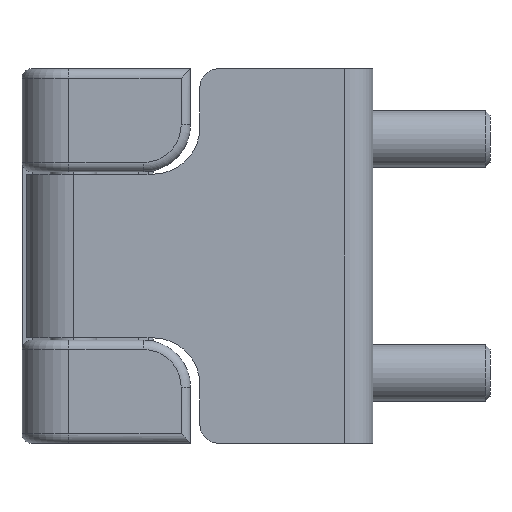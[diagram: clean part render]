
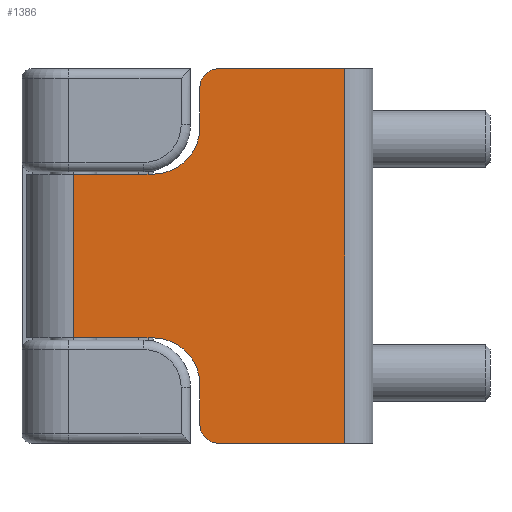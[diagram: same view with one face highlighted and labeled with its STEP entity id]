
A CAD part, left-side view. The second image highlights one B-rep face of the part: STEP entity #1386.
In plain terms, the highlighted planar face has unit normal (-1, 0, 0).
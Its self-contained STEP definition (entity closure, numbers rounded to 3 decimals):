
#1249 = VERTEX_POINT ( 'NONE', #5689 ) ;
#1255 = VERTEX_POINT ( 'NONE', #5735 ) ;
#1259 = EDGE_CURVE ( 'NONE', #1255, #1272, #5733, .T. ) ;
#1263 = VERTEX_POINT ( 'NONE', #5730 ) ;
#1264 = EDGE_CURVE ( 'NONE', #1255, #1263, #5717, .T. ) ;
#1271 = EDGE_CURVE ( 'NONE', #1272, #1249, #5786, .T. ) ;
#1272 = VERTEX_POINT ( 'NONE', #5760 ) ;
#1291 = EDGE_CURVE ( 'NONE', #1318, #1311, #5832, .T. ) ;
#1309 = EDGE_CURVE ( 'NONE', #1263, #1318, #5896, .T. ) ;
#1311 = VERTEX_POINT ( 'NONE', #5882 ) ;
#1318 = VERTEX_POINT ( 'NONE', #5848 ) ;
#1335 = EDGE_CURVE ( 'NONE', #1359, #1339, #5972, .T. ) ;
#1339 = VERTEX_POINT ( 'NONE', #6017 ) ;
#1358 = EDGE_CURVE ( 'NONE', #1359, #1311, #6046, .T. ) ;
#1359 = VERTEX_POINT ( 'NONE', #6044 ) ;
#1368 = ORIENTED_EDGE ( 'NONE', *, *, #1309, .F. ) ;
#1369 = ORIENTED_EDGE ( 'NONE', *, *, #1358, .T. ) ;
#1370 = ORIENTED_EDGE ( 'NONE', *, *, #1335, .F. ) ;
#1371 = ORIENTED_EDGE ( 'NONE', *, *, #1259, .T. ) ;
#1372 = ORIENTED_EDGE ( 'NONE', *, *, #1291, .F. ) ;
#1373 = ORIENTED_EDGE ( 'NONE', *, *, #1441, .F. ) ;
#1375 = ORIENTED_EDGE ( 'NONE', *, *, #1264, .F. ) ;
#1377 = ORIENTED_EDGE ( 'NONE', *, *, #1385, .F. ) ;
#1382 = EDGE_LOOP ( 'NONE', ( #1402, #1388, #1377, #1389, #1370, #1369, #1372, #1368, #1375, #1371, #1442, #1373 ) ) ;
#1385 = EDGE_CURVE ( 'NONE', #1393, #1404, #6116, .T. ) ;
#1386 = ADVANCED_FACE ( 'NONE', ( #6113 ), #6108, .F. ) ;
#1387 = VERTEX_POINT ( 'NONE', #6109 ) ;
#1388 = ORIENTED_EDGE ( 'NONE', *, *, #1395, .T. ) ;
#1389 = ORIENTED_EDGE ( 'NONE', *, *, #1390, .F. ) ;
#1390 = EDGE_CURVE ( 'NONE', #1339, #1393, #6146, .T. ) ;
#1393 = VERTEX_POINT ( 'NONE', #6151 ) ;
#1395 = EDGE_CURVE ( 'NONE', #1403, #1404, #6145, .T. ) ;
#1398 = EDGE_CURVE ( 'NONE', #1403, #1387, #6181, .T. ) ;
#1402 = ORIENTED_EDGE ( 'NONE', *, *, #1398, .F. ) ;
#1403 = VERTEX_POINT ( 'NONE', #6184 ) ;
#1404 = VERTEX_POINT ( 'NONE', #6170 ) ;
#1441 = EDGE_CURVE ( 'NONE', #1387, #1249, #6315, .T. ) ;
#1442 = ORIENTED_EDGE ( 'NONE', *, *, #1271, .T. ) ;
#5689 = CARTESIAN_POINT ( 'NONE',  ( -42.837, -1.913, 0. ) ) ;
#5714 = DIRECTION ( 'NONE',  ( 0., 0., 1. ) ) ;
#5715 = VECTOR ( 'NONE', #5714, 1000. ) ;
#5716 = CARTESIAN_POINT ( 'NONE',  ( -42.837, 13.587, -1. ) ) ;
#5717 = LINE ( 'NONE', #5716, #5715 ) ;
#5726 = DIRECTION ( 'NONE',  ( 0., 1., 0. ) ) ;
#5727 = DIRECTION ( 'NONE',  ( -1., 0., 0. ) ) ;
#5728 = CARTESIAN_POINT ( 'NONE',  ( -42.837, 11.587, 2. ) ) ;
#5729 = AXIS2_PLACEMENT_3D ( 'NONE', #5728, #5727, #5726 ) ;
#5730 = CARTESIAN_POINT ( 'NONE',  ( -42.837, 13.587, 6.25 ) ) ;
#5733 = CIRCLE ( 'NONE', #5729, 2. ) ;
#5735 = CARTESIAN_POINT ( 'NONE',  ( -42.837, 13.587, 2. ) ) ;
#5760 = CARTESIAN_POINT ( 'NONE',  ( -42.837, 11.587, 0. ) ) ;
#5775 = DIRECTION ( 'NONE',  ( 0., -1., 0. ) ) ;
#5776 = VECTOR ( 'NONE', #5775, 1000. ) ;
#5777 = CARTESIAN_POINT ( 'NONE',  ( -42.837, 27.087, 0. ) ) ;
#5786 = LINE ( 'NONE', #5777, #5776 ) ;
#5831 = CARTESIAN_POINT ( 'NONE',  ( -42.837, 33.087, 11.25 ) ) ;
#5832 = LINE ( 'NONE', #5831, #5863 ) ;
#5848 = CARTESIAN_POINT ( 'NONE',  ( -42.837, 18.587, 11.25 ) ) ;
#5862 = DIRECTION ( 'NONE',  ( 0., 1., 0. ) ) ;
#5863 = VECTOR ( 'NONE', #5862, 1000. ) ;
#5873 = DIRECTION ( 'NONE',  ( 0., 1., 0. ) ) ;
#5874 = DIRECTION ( 'NONE',  ( -1., 0., 0. ) ) ;
#5875 = AXIS2_PLACEMENT_3D ( 'NONE', #5883, #5874, #5873 ) ;
#5882 = CARTESIAN_POINT ( 'NONE',  ( -42.837, 27.087, 11.25 ) ) ;
#5883 = CARTESIAN_POINT ( 'NONE',  ( -42.837, 18.587, 6.25 ) ) ;
#5896 = CIRCLE ( 'NONE', #5875, 5. ) ;
#5972 = LINE ( 'NONE', #6006, #6005 ) ;
#6004 = DIRECTION ( 'NONE',  ( 0., -1., 0. ) ) ;
#6005 = VECTOR ( 'NONE', #6004, 1000. ) ;
#6006 = CARTESIAN_POINT ( 'NONE',  ( -42.837, 33.087, 28.75 ) ) ;
#6017 = CARTESIAN_POINT ( 'NONE',  ( -42.837, 18.587, 28.75 ) ) ;
#6044 = CARTESIAN_POINT ( 'NONE',  ( -42.837, 27.087, 28.75 ) ) ;
#6046 = LINE ( 'NONE', #6057, #6094 ) ;
#6056 = DIRECTION ( 'NONE',  ( 0., 0., -1. ) ) ;
#6057 = CARTESIAN_POINT ( 'NONE',  ( -42.837, 27.087, 40. ) ) ;
#6094 = VECTOR ( 'NONE', #6056, 1000. ) ;
#6107 = DIRECTION ( 'NONE',  ( 0., 0., 1. ) ) ;
#6108 = PLANE ( 'NONE',  #6128 ) ;
#6109 = CARTESIAN_POINT ( 'NONE',  ( -42.837, -1.913, 40. ) ) ;
#6113 = FACE_OUTER_BOUND ( 'NONE', #1382, .T. ) ;
#6115 = CARTESIAN_POINT ( 'NONE',  ( -42.837, 13.587, 41. ) ) ;
#6116 = LINE ( 'NONE', #6115, #6126 ) ;
#6126 = VECTOR ( 'NONE', #6107, 1000. ) ;
#6128 = AXIS2_PLACEMENT_3D ( 'NONE', #6149, #6148, #6147 ) ;
#6135 = DIRECTION ( 'NONE',  ( 0., 1., 0. ) ) ;
#6136 = DIRECTION ( 'NONE',  ( -1., 0., 0. ) ) ;
#6137 = AXIS2_PLACEMENT_3D ( 'NONE', #6139, #6136, #6135 ) ;
#6139 = CARTESIAN_POINT ( 'NONE',  ( -42.837, 11.587, 38. ) ) ;
#6141 = DIRECTION ( 'NONE',  ( 0., -1., 0. ) ) ;
#6142 = DIRECTION ( 'NONE',  ( -1., 0., 0. ) ) ;
#6143 = AXIS2_PLACEMENT_3D ( 'NONE', #6150, #6142, #6141 ) ;
#6145 = CIRCLE ( 'NONE', #6137, 2. ) ;
#6146 = CIRCLE ( 'NONE', #6143, 5. ) ;
#6147 = DIRECTION ( 'NONE',  ( 0., 1., 0. ) ) ;
#6148 = DIRECTION ( 'NONE',  ( 1., 0., 0. ) ) ;
#6149 = CARTESIAN_POINT ( 'NONE',  ( -42.837, 27.087, 40. ) ) ;
#6150 = CARTESIAN_POINT ( 'NONE',  ( -42.837, 18.587, 33.75 ) ) ;
#6151 = CARTESIAN_POINT ( 'NONE',  ( -42.837, 13.587, 33.75 ) ) ;
#6170 = CARTESIAN_POINT ( 'NONE',  ( -42.837, 13.587, 38. ) ) ;
#6178 = DIRECTION ( 'NONE',  ( 0., -1., 0. ) ) ;
#6179 = VECTOR ( 'NONE', #6178, 1000. ) ;
#6180 = CARTESIAN_POINT ( 'NONE',  ( -42.837, 27.087, 40. ) ) ;
#6181 = LINE ( 'NONE', #6180, #6179 ) ;
#6184 = CARTESIAN_POINT ( 'NONE',  ( -42.837, 11.587, 40. ) ) ;
#6312 = DIRECTION ( 'NONE',  ( 0., 0., -1. ) ) ;
#6313 = VECTOR ( 'NONE', #6312, 1000. ) ;
#6314 = CARTESIAN_POINT ( 'NONE',  ( -42.837, -1.913, 40. ) ) ;
#6315 = LINE ( 'NONE', #6314, #6313 ) ;
